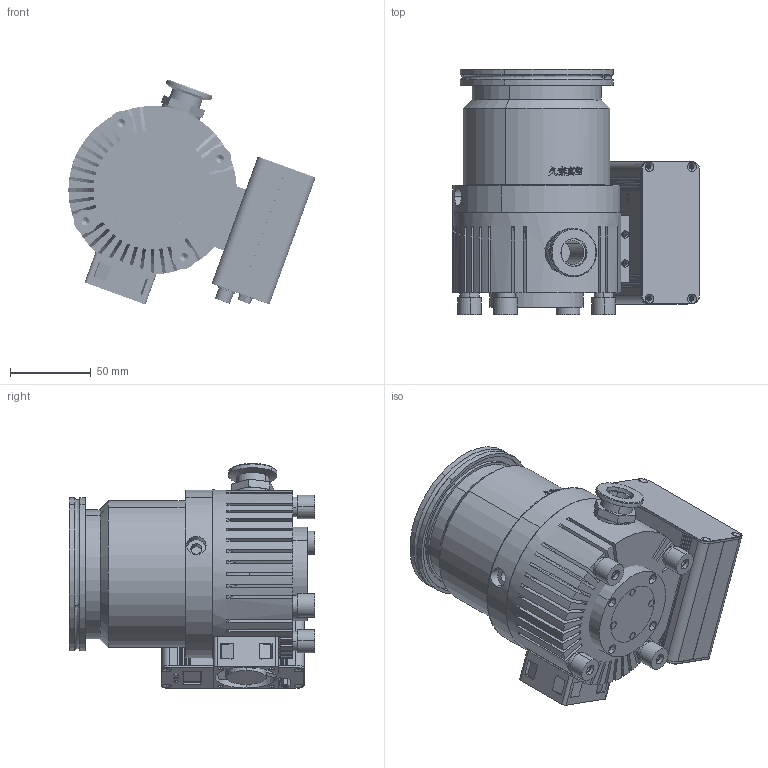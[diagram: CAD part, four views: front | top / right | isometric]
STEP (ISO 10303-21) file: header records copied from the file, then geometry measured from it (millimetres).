
FILE_DESCRIPTION (( 'STEP AP203' ), '1' );
FILE_NAME ('JTFB-80煦赽掙圉棠-23-12-23w.STEP', '2025-03-31T06:49:53', ( 'User' ), ( 'China' ), 'SwSTEP 2.0', 'SolidWorks 2016', '' );
FILE_SCHEMA (( 'CONFIG_CONTROL_DESIGN' ));
Length unit declared in the file: millimetre
Products named in the file (13): YD4020HSL瑞圮圉棠-23-12-23w_1; JTFB-63虯-圉棠-23-12-23w_1; 萇埭諉芛MX15-8圉棠-23-12-23w_1; JTFB-63-萇埭嘐隅啣圉棠-23-12-23w_1; JTFB-80掙极-圉棠-23-12-23源w_1; JTFB-63萇埭嘐隅啣1圉棠-23-12-23w_1; JTFB-80掙褲-圉棠-23-12-23w_1; MP24D-BR1圉棠-23-12-23w_1; JTFB-80綴裔 瑞濮B圉棠-23-12-23_1; JTFB-80圉棠菁裔23-12-23w_1; JTFB-80-KF16-圉棠-23-12-23w_1; JTFB-80煦赽掙圉棠-23-12-23w; JTFB-80虯蝶杶B圉棠-23-12-23w_1
Assembly tree (18 placements, depth 2):
  JTFB-80煦赽掙圉棠-23-12-23w
    JTFB-80掙极-圉棠-23-12-23源w_1
    JTFB-80掙褲-圉棠-23-12-23w_1
    JTFB-80綴裔 瑞濮B圉棠-23-12-23_1
    JTFB-80-KF16-圉棠-23-12-23w_1
    JTFB-80虯蝶杶B圉棠-23-12-23w_1  x4
    YD4020HSL瑞圮圉棠-23-12-23w_1
    JTFB-63虯-圉棠-23-12-23w_1  x4
    萇埭諉芛MX15-8圉棠-23-12-23w_1
    JTFB-63-萇埭嘐隅啣圉棠-23-12-23w_1
    JTFB-63萇埭嘐隅啣1圉棠-23-12-23w_1
    MP24D-BR1圉棠-23-12-23w_1
    JTFB-80圉棠菁裔23-12-23w_1
Bounding box: 152.66 x 151.65 x 139.13 mm (x, y, z)
Volume: 1064668 mm3; surface area: 242662.6 mm2
Topology: 18 solids, 48 shells, 2492 faces, 6803 edges, 4445 vertices
Faces by surface type: cylinder 1073, plane 580, bspline 560, cone 263, torus 14, sphere 2
Entity records: 222938 total; most frequent: CARTESIAN_POINT 166320, ORIENTED_EDGE 13000, DIRECTION 9682, EDGE_CURVE 6521, VERTEX_POINT 4324, AXIS2_PLACEMENT_3D 3585, EDGE_LOOP 2718, LINE 2512
